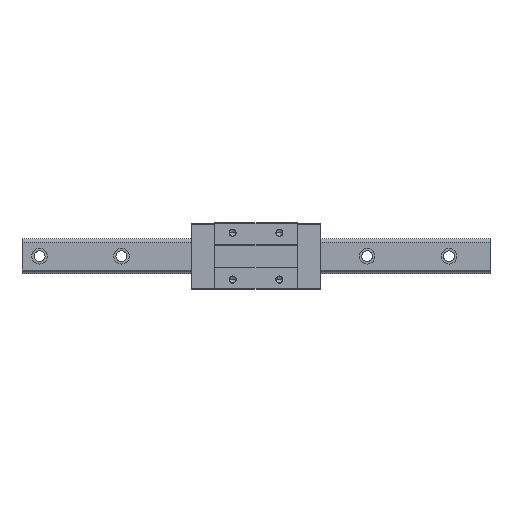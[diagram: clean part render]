
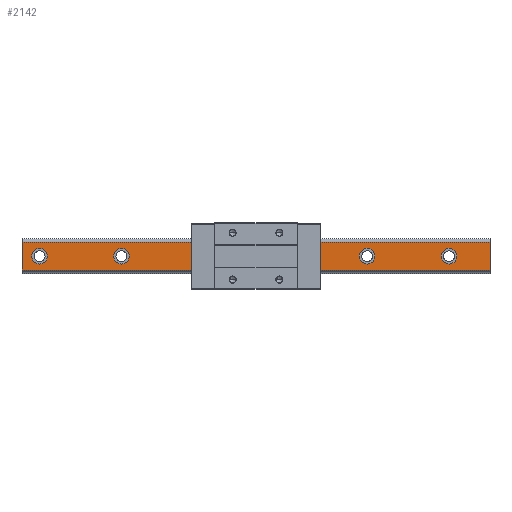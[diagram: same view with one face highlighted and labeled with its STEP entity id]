
A CAD part, top view. The second image highlights one B-rep face of the part: STEP entity #2142.
In plain terms, the highlighted planar face has unit normal (0, 0, 1).
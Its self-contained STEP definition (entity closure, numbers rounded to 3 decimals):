
#3 = ORIENTED_EDGE ( 'NONE', *, *, #4596, .F. ) ;
#18 = VERTEX_POINT ( 'NONE', #3399 ) ;
#55 = FACE_BOUND ( 'NONE', #4341, .T. ) ;
#110 = ORIENTED_EDGE ( 'NONE', *, *, #2638, .T. ) ;
#145 = CARTESIAN_POINT ( 'NONE',  ( 300., 17.696, 32. ) ) ;
#150 = EDGE_CURVE ( 'NONE', #18, #5194, #1469, .T. ) ;
#162 = CIRCLE ( 'NONE', #390, 10. ) ;
#173 = CARTESIAN_POINT ( 'NONE',  ( -300., 17.696, 32. ) ) ;
#242 = VERTEX_POINT ( 'NONE', #1520 ) ;
#326 = CARTESIAN_POINT ( 'NONE',  ( 37.5, 0., 32. ) ) ;
#328 = DIRECTION ( 'NONE',  ( 0., 0., 1. ) ) ;
#390 = AXIS2_PLACEMENT_3D ( 'NONE', #1922, #595, #1090 ) ;
#394 = DIRECTION ( 'NONE',  ( 1., 0., 0. ) ) ;
#430 = AXIS2_PLACEMENT_3D ( 'NONE', #1687, #328, #2996 ) ;
#459 = DIRECTION ( 'NONE',  ( 0., -1., 0. ) ) ;
#527 = CIRCLE ( 'NONE', #3794, 10. ) ;
#573 = LINE ( 'NONE', #145, #2781 ) ;
#588 = DIRECTION ( 'NONE',  ( 0., 0., 1. ) ) ;
#595 = DIRECTION ( 'NONE',  ( 0., 0., 1. ) ) ;
#625 = DIRECTION ( 'NONE',  ( -1., 0., 0. ) ) ;
#633 = DIRECTION ( 'NONE',  ( 1., 0., 0. ) ) ;
#717 = AXIS2_PLACEMENT_3D ( 'NONE', #4515, #4958, #633 ) ;
#769 = CARTESIAN_POINT ( 'NONE',  ( -182.5, 0., 32. ) ) ;
#808 = DIRECTION ( 'NONE',  ( 1., 0., 0. ) ) ;
#861 = EDGE_CURVE ( 'NONE', #3504, #5465, #2153, .T. ) ;
#900 = VERTEX_POINT ( 'NONE', #2879 ) ;
#903 = CARTESIAN_POINT ( 'NONE',  ( 37.5, 0., 32. ) ) ;
#908 = FACE_BOUND ( 'NONE', #1925, .T. ) ;
#929 = VERTEX_POINT ( 'NONE', #5244 ) ;
#1011 = CARTESIAN_POINT ( 'NONE',  ( -300., -17.696, 32. ) ) ;
#1041 = EDGE_LOOP ( 'NONE', ( #2259, #1476 ) ) ;
#1080 = DIRECTION ( 'NONE',  ( 0., 0., 1. ) ) ;
#1090 = DIRECTION ( 'NONE',  ( 1., 0., 0. ) ) ;
#1159 = CARTESIAN_POINT ( 'NONE',  ( -267.5, 0., 32. ) ) ;
#1198 = DIRECTION ( 'NONE',  ( 1., 0., 0. ) ) ;
#1219 = VERTEX_POINT ( 'NONE', #2281 ) ;
#1312 = ORIENTED_EDGE ( 'NONE', *, *, #3683, .F. ) ;
#1316 = DIRECTION ( 'NONE',  ( 0., 0., 1. ) ) ;
#1368 = AXIS2_PLACEMENT_3D ( 'NONE', #326, #1080, #4601 ) ;
#1387 = VERTEX_POINT ( 'NONE', #1992 ) ;
#1396 = VERTEX_POINT ( 'NONE', #4190 ) ;
#1419 = CARTESIAN_POINT ( 'NONE',  ( 300., -17.696, 32. ) ) ;
#1431 = EDGE_CURVE ( 'NONE', #2270, #2488, #2685, .T. ) ;
#1469 = CIRCLE ( 'NONE', #4634, 10. ) ;
#1476 = ORIENTED_EDGE ( 'NONE', *, *, #2572, .F. ) ;
#1513 = ORIENTED_EDGE ( 'NONE', *, *, #3265, .F. ) ;
#1515 = DIRECTION ( 'NONE',  ( 1., 0., 0. ) ) ;
#1520 = CARTESIAN_POINT ( 'NONE',  ( -300., -17.696, 32. ) ) ;
#1614 = ORIENTED_EDGE ( 'NONE', *, *, #3842, .F. ) ;
#1644 = CIRCLE ( 'NONE', #1368, 10. ) ;
#1687 = CARTESIAN_POINT ( 'NONE',  ( 142.5, 0., 32. ) ) ;
#1853 = DIRECTION ( 'NONE',  ( 0., 0., -1. ) ) ;
#1866 = EDGE_LOOP ( 'NONE', ( #2213, #2317 ) ) ;
#1875 = DIRECTION ( 'NONE',  ( 0., -1., 0. ) ) ;
#1922 = CARTESIAN_POINT ( 'NONE',  ( 247.5, 0., 32. ) ) ;
#1925 = EDGE_LOOP ( 'NONE', ( #3, #3017 ) ) ;
#1929 = AXIS2_PLACEMENT_3D ( 'NONE', #4292, #2469, #808 ) ;
#1977 = CARTESIAN_POINT ( 'NONE',  ( -67.5, 0., 32. ) ) ;
#1981 = CARTESIAN_POINT ( 'NONE',  ( 300., 17.696, 32. ) ) ;
#1992 = CARTESIAN_POINT ( 'NONE',  ( 300., -17.696, 32. ) ) ;
#2088 = EDGE_CURVE ( 'NONE', #3906, #1396, #3489, .T. ) ;
#2142 = ADVANCED_FACE ( 'NONE', ( #55, #908, #2692, #4046, #3599, #4016, #2635 ), #5300, .F. ) ;
#2153 = CIRCLE ( 'NONE', #430, 10. ) ;
#2179 = ORIENTED_EDGE ( 'NONE', *, *, #5327, .F. ) ;
#2204 = ORIENTED_EDGE ( 'NONE', *, *, #2585, .T. ) ;
#2213 = ORIENTED_EDGE ( 'NONE', *, *, #4734, .F. ) ;
#2259 = ORIENTED_EDGE ( 'NONE', *, *, #861, .F. ) ;
#2270 = VERTEX_POINT ( 'NONE', #4605 ) ;
#2281 = CARTESIAN_POINT ( 'NONE',  ( 47.5, 0., 32. ) ) ;
#2289 = CARTESIAN_POINT ( 'NONE',  ( -172.5, 0., 32. ) ) ;
#2317 = ORIENTED_EDGE ( 'NONE', *, *, #4215, .F. ) ;
#2377 = LINE ( 'NONE', #1011, #3621 ) ;
#2421 = DIRECTION ( 'NONE',  ( 0., 0., 1. ) ) ;
#2451 = CIRCLE ( 'NONE', #2631, 10. ) ;
#2469 = DIRECTION ( 'NONE',  ( 0., 0., 1. ) ) ;
#2488 = VERTEX_POINT ( 'NONE', #1159 ) ;
#2493 = ORIENTED_EDGE ( 'NONE', *, *, #150, .F. ) ;
#2504 = VECTOR ( 'NONE', #4449, 1000. ) ;
#2572 = EDGE_CURVE ( 'NONE', #5465, #3504, #527, .T. ) ;
#2585 = EDGE_CURVE ( 'NONE', #2662, #242, #2377, .T. ) ;
#2631 = AXIS2_PLACEMENT_3D ( 'NONE', #903, #3594, #5296 ) ;
#2635 = FACE_OUTER_BOUND ( 'NONE', #4383, .T. ) ;
#2638 = EDGE_CURVE ( 'NONE', #2724, #2662, #573, .T. ) ;
#2662 = VERTEX_POINT ( 'NONE', #173 ) ;
#2685 = CIRCLE ( 'NONE', #717, 10. ) ;
#2692 = FACE_BOUND ( 'NONE', #5205, .T. ) ;
#2716 = CARTESIAN_POINT ( 'NONE',  ( 300., -17.696, 32. ) ) ;
#2724 = VERTEX_POINT ( 'NONE', #1981 ) ;
#2758 = CIRCLE ( 'NONE', #4963, 10. ) ;
#2781 = VECTOR ( 'NONE', #625, 1000. ) ;
#2808 = VERTEX_POINT ( 'NONE', #3143 ) ;
#2817 = AXIS2_PLACEMENT_3D ( 'NONE', #2289, #588, #1515 ) ;
#2879 = CARTESIAN_POINT ( 'NONE',  ( 257.5, 0., 32. ) ) ;
#2984 = ORIENTED_EDGE ( 'NONE', *, *, #4754, .F. ) ;
#2996 = DIRECTION ( 'NONE',  ( 1., 0., 0. ) ) ;
#3002 = CIRCLE ( 'NONE', #2817, 10. ) ;
#3004 = CARTESIAN_POINT ( 'NONE',  ( -277.5, 0., 32. ) ) ;
#3017 = ORIENTED_EDGE ( 'NONE', *, *, #2088, .F. ) ;
#3034 = AXIS2_PLACEMENT_3D ( 'NONE', #5108, #3281, #4629 ) ;
#3043 = LINE ( 'NONE', #3958, #3152 ) ;
#3143 = CARTESIAN_POINT ( 'NONE',  ( 237.5, 0., 32. ) ) ;
#3152 = VECTOR ( 'NONE', #459, 1000. ) ;
#3180 = DIRECTION ( 'NONE',  ( 0., 0., 1. ) ) ;
#3265 = EDGE_CURVE ( 'NONE', #1219, #929, #1644, .T. ) ;
#3281 = DIRECTION ( 'NONE',  ( 0., 0., 1. ) ) ;
#3300 = AXIS2_PLACEMENT_3D ( 'NONE', #1419, #1853, #4368 ) ;
#3319 = DIRECTION ( 'NONE',  ( 0., 0., 1. ) ) ;
#3323 = CARTESIAN_POINT ( 'NONE',  ( 152.5, 0., 32. ) ) ;
#3399 = CARTESIAN_POINT ( 'NONE',  ( -77.5, 0., 32. ) ) ;
#3489 = CIRCLE ( 'NONE', #1929, 10. ) ;
#3498 = CIRCLE ( 'NONE', #3034, 10. ) ;
#3504 = VERTEX_POINT ( 'NONE', #3323 ) ;
#3522 = ORIENTED_EDGE ( 'NONE', *, *, #1431, .F. ) ;
#3594 = DIRECTION ( 'NONE',  ( 0., 0., 1. ) ) ;
#3599 = FACE_BOUND ( 'NONE', #1041, .T. ) ;
#3621 = VECTOR ( 'NONE', #1875, 1000. ) ;
#3645 = CARTESIAN_POINT ( 'NONE',  ( 142.5, 0., 32. ) ) ;
#3648 = LINE ( 'NONE', #2716, #2504 ) ;
#3683 = EDGE_CURVE ( 'NONE', #2724, #1387, #3043, .T. ) ;
#3794 = AXIS2_PLACEMENT_3D ( 'NONE', #3645, #3180, #4446 ) ;
#3842 = EDGE_CURVE ( 'NONE', #1387, #242, #3648, .T. ) ;
#3844 = AXIS2_PLACEMENT_3D ( 'NONE', #3004, #1316, #394 ) ;
#3906 = VERTEX_POINT ( 'NONE', #769 ) ;
#3958 = CARTESIAN_POINT ( 'NONE',  ( 300., -17.696, 32. ) ) ;
#3980 = ORIENTED_EDGE ( 'NONE', *, *, #4461, .F. ) ;
#4016 = FACE_BOUND ( 'NONE', #1866, .T. ) ;
#4046 = FACE_BOUND ( 'NONE', #5489, .T. ) ;
#4190 = CARTESIAN_POINT ( 'NONE',  ( -162.5, 0., 32. ) ) ;
#4215 = EDGE_CURVE ( 'NONE', #2808, #900, #162, .T. ) ;
#4292 = CARTESIAN_POINT ( 'NONE',  ( -172.5, 0., 32. ) ) ;
#4341 = EDGE_LOOP ( 'NONE', ( #3980, #3522 ) ) ;
#4368 = DIRECTION ( 'NONE',  ( -1., 0., 0. ) ) ;
#4383 = EDGE_LOOP ( 'NONE', ( #2204, #1614, #1312, #110 ) ) ;
#4446 = DIRECTION ( 'NONE',  ( 1., 0., 0. ) ) ;
#4449 = DIRECTION ( 'NONE',  ( -1., 0., 0. ) ) ;
#4461 = EDGE_CURVE ( 'NONE', #2488, #2270, #5084, .T. ) ;
#4515 = CARTESIAN_POINT ( 'NONE',  ( -277.5, 0., 32. ) ) ;
#4525 = CARTESIAN_POINT ( 'NONE',  ( 132.5, 0., 32. ) ) ;
#4549 = CARTESIAN_POINT ( 'NONE',  ( -67.5, 0., 32. ) ) ;
#4596 = EDGE_CURVE ( 'NONE', #1396, #3906, #3002, .T. ) ;
#4601 = DIRECTION ( 'NONE',  ( 1., 0., 0. ) ) ;
#4605 = CARTESIAN_POINT ( 'NONE',  ( -287.5, 0., 32. ) ) ;
#4607 = DIRECTION ( 'NONE',  ( 1., 0., 0. ) ) ;
#4629 = DIRECTION ( 'NONE',  ( 1., 0., 0. ) ) ;
#4634 = AXIS2_PLACEMENT_3D ( 'NONE', #1977, #3319, #4607 ) ;
#4734 = EDGE_CURVE ( 'NONE', #900, #2808, #3498, .T. ) ;
#4754 = EDGE_CURVE ( 'NONE', #5194, #18, #2758, .T. ) ;
#4958 = DIRECTION ( 'NONE',  ( 0., 0., 1. ) ) ;
#4963 = AXIS2_PLACEMENT_3D ( 'NONE', #4549, #2421, #1198 ) ;
#5084 = CIRCLE ( 'NONE', #3844, 10. ) ;
#5108 = CARTESIAN_POINT ( 'NONE',  ( 247.5, 0., 32. ) ) ;
#5151 = CARTESIAN_POINT ( 'NONE',  ( -57.5, 0., 32. ) ) ;
#5194 = VERTEX_POINT ( 'NONE', #5151 ) ;
#5205 = EDGE_LOOP ( 'NONE', ( #2984, #2493 ) ) ;
#5244 = CARTESIAN_POINT ( 'NONE',  ( 27.5, 0., 32. ) ) ;
#5296 = DIRECTION ( 'NONE',  ( 1., 0., 0. ) ) ;
#5300 = PLANE ( 'NONE',  #3300 ) ;
#5327 = EDGE_CURVE ( 'NONE', #929, #1219, #2451, .T. ) ;
#5465 = VERTEX_POINT ( 'NONE', #4525 ) ;
#5489 = EDGE_LOOP ( 'NONE', ( #1513, #2179 ) ) ;
